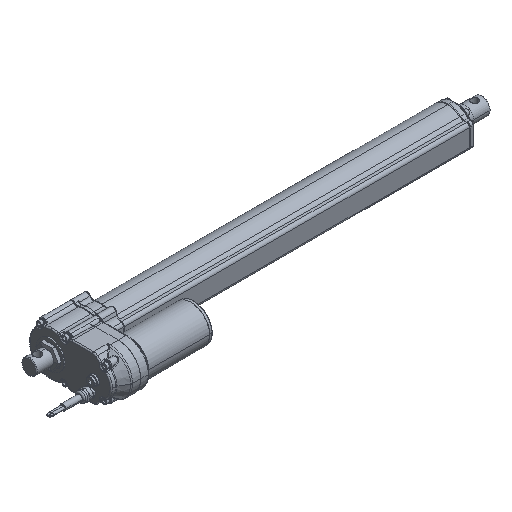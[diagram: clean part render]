
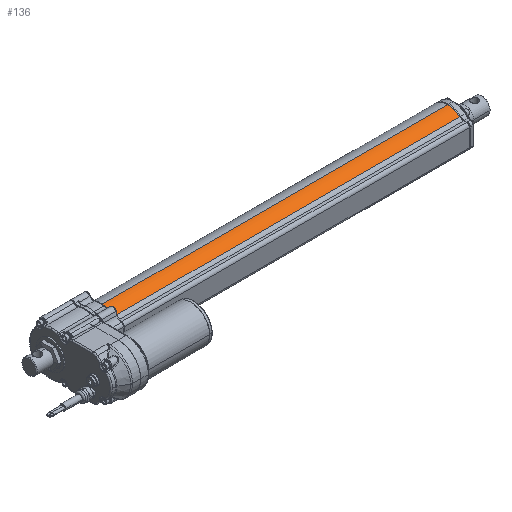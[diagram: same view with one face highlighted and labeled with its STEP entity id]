
A CAD part, isometric view. The second image highlights one B-rep face of the part: STEP entity #136.
In plain terms, the highlighted cylindrical face has radius 30.5 mm (diameter 61 mm), a partial arc.
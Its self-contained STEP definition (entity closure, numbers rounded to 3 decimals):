
#136=ADVANCED_FACE('',(#1138),#1139,.T.);
#1138=FACE_OUTER_BOUND('',#3063,.T.);
#1139=CYLINDRICAL_SURFACE('',#3064,30.5);
#3063=EDGE_LOOP('',(#8479,#8480,#8481,#8482));
#3064=AXIS2_PLACEMENT_3D('',#8483,#8484,#8485);
#8479=ORIENTED_EDGE('',*,*,#15518,.F.);
#8480=ORIENTED_EDGE('',*,*,#15519,.F.);
#8481=ORIENTED_EDGE('',*,*,#15520,.T.);
#8482=ORIENTED_EDGE('',*,*,#15521,.F.);
#8483=CARTESIAN_POINT('',(94.3,0.,0.));
#8484=DIRECTION('',(1.0,0.,0.));
#8485=DIRECTION('',(0.,0.,1.0));
#15518=EDGE_CURVE('',#18125,#18126,#18127,.T.);
#15519=EDGE_CURVE('',#18128,#18125,#18129,.T.);
#15520=EDGE_CURVE('',#18128,#18130,#18131,.T.);
#15521=EDGE_CURVE('',#18126,#18130,#18132,.T.);
#18125=VERTEX_POINT('',#23105);
#18126=VERTEX_POINT('',#23106);
#18127=LINE('',#23107,#23108);
#18128=VERTEX_POINT('',#23109);
#18129=CIRCLE('',#23110,30.5);
#18130=VERTEX_POINT('',#23111);
#18131=LINE('',#23112,#23113);
#18132=CIRCLE('',#23114,30.5);
#23105=CARTESIAN_POINT('',(94.3,0.,30.5));
#23106=CARTESIAN_POINT('',(689.5,0.,30.5));
#23107=CARTESIAN_POINT('',(94.3,0.,30.5));
#23108=VECTOR('',#38996,1.0);
#23109=CARTESIAN_POINT('',(94.3,-20.49,22.593));
#23110=AXIS2_PLACEMENT_3D('',#38997,#38998,#38999);
#23111=CARTESIAN_POINT('',(689.5,-20.49,22.593));
#23112=CARTESIAN_POINT('',(94.3,-20.49,22.593));
#23113=VECTOR('',#39000,1.0);
#23114=AXIS2_PLACEMENT_3D('',#39001,#39002,#39003);
#38996=DIRECTION('',(1.0,0.,0.));
#38997=CARTESIAN_POINT('',(94.3,0.,0.));
#38998=DIRECTION('',(-1.0,0.,0.));
#38999=DIRECTION('',(0.,0.,1.0));
#39000=DIRECTION('',(1.0,0.,0.));
#39001=CARTESIAN_POINT('',(689.5,0.,0.));
#39002=DIRECTION('',(1.0,0.,0.));
#39003=DIRECTION('',(0.,0.,1.0));
